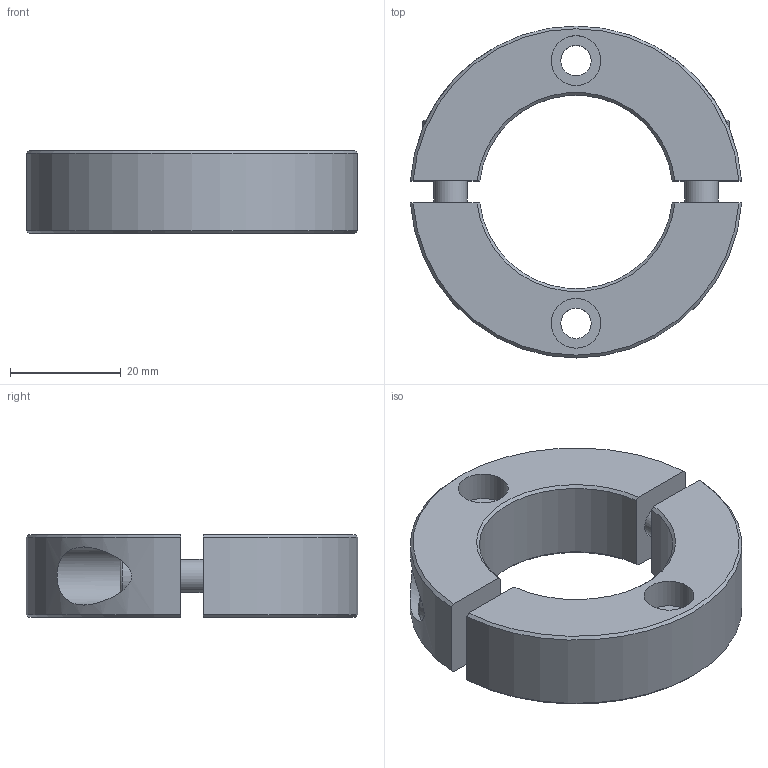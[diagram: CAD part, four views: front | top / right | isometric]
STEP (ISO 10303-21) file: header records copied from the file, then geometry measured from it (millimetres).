
FILE_DESCRIPTION( ( 'STEP AP203' ), '1' );
FILE_NAME( 'C:/Temp/Ganter_Step_05_03_2020/data/3_2/gn7072_2/Split Stainless Steel-Set collar GN 7072.2-60-B35-NI-B.stp', '2020-03-13T05:41:01', ( 'License CC BY-ND 4.0' ), ( 'CADENAS' ), ' ', 'PARTsolutions', ' ' );
FILE_SCHEMA( ( 'CONFIG_CONTROL_DESIGN' ) );
Length unit declared in the file: millimetre
Products named in the file (1): _Split Stainless Steel-Set collar GN 7072.2-60-B35-NI-B
Bounding box: 59.87 x 60 x 15 mm (x, y, z)
Volume: 24106.3 mm3; surface area: 10486.6 mm2
Topology: 1 solids, 1 shells, 56 faces, 131 edges, 89 vertices
Faces by surface type: plane 30, cylinder 16, cone 8, torus 2
Full cylindrical faces by diameter (mm): 5.5 x2, 6 x2, 6.4 x2, 9 x2, 10 x2, 10.5 x2
Entity records: 1713 total; most frequent: CARTESIAN_POINT 460, DIRECTION 246, ORIENTED_EDGE 220, EDGE_CURVE 110, AXIS2_PLACEMENT_3D 97, EDGE_LOOP 88, VERTEX_POINT 82, FACE_OUTER_BOUND 70
